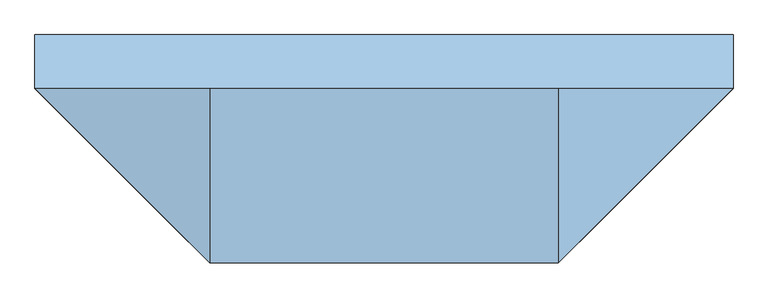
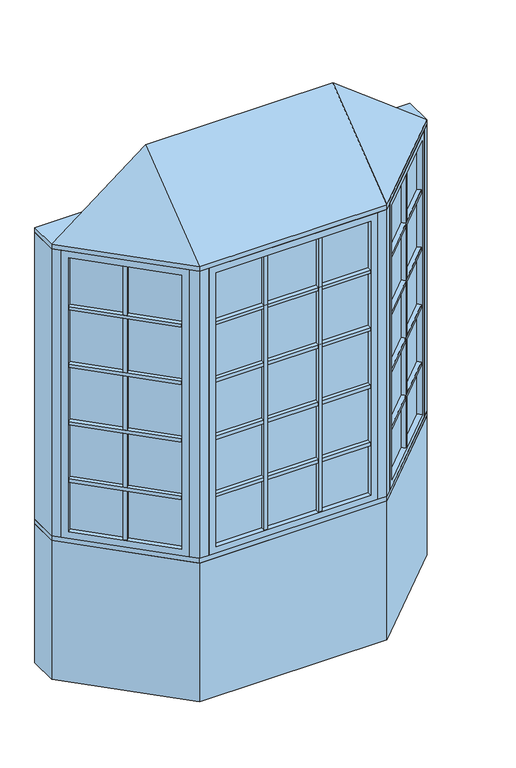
"""IFC4 building model written with IfcOpenShell, lengths in millimetres: window geometry, Pollard_Windows_Tudor Casement Bows and Bays : AML-BAY 45 AFR0516-10-600_GC."""

from ifc_helpers import new_model, si_unit, frame, origin, origin_with_axes, place, context, project, spatial, polyline, outline, extrude, faceted_brep, source, transform, mapped, element, save


def window_9b99bb87(model_context):
    return source(origin(), model_context, "Body", "SolidModel", [
        extrude(outline(polyline([(553.0114193, -506.9608753), (537.4550701, -491.4045261), (915.116171, -113.7434252), (930.6725202, -129.2997743), (553.0114193, -506.9608753)])), frame((0.0, 0.0, 1110.998), z_axis=(0.0, 0.0, 1.0), x_axis=(1.0, 0.0, 0.0)), (0.0, 0.0, 1.0), 18.0),
        extrude(outline(polyline([(533.8629677, -487.8124236), (518.3066185, -472.2560744), (895.9677194, -94.5949735), (911.5240686, -110.1513227), (533.8629677, -487.8124236)])), frame((0.0, 0.0, 1110.998), z_axis=(0.0, 0.0, 1.0), x_axis=(1.0, 0.0, 0.0)), (0.0, 0.0, 1.0), 18.0),
        extrude(outline(polyline([(553.0114193, -506.9608753), (537.4550701, -491.4045261), (915.116171, -113.7434252), (930.6725202, -129.2997743), (553.0114193, -506.9608753)])), frame((0.0, 0.0, 1430.998), z_axis=(0.0, 0.0, 1.0), x_axis=(1.0, 0.0, 0.0)), (0.0, 0.0, 1.0), 18.0),
        extrude(outline(polyline([(533.8629677, -487.8124236), (518.3066185, -472.2560744), (895.9677194, -94.5949735), (911.5240686, -110.1513227), (533.8629677, -487.8124236)])), frame((0.0, 0.0, 1430.998), z_axis=(0.0, 0.0, 1.0), x_axis=(1.0, 0.0, 0.0)), (0.0, 0.0, 1.0), 18.0),
        extrude(outline(polyline([(553.0114193, -506.9608753), (537.4550701, -491.4045261), (915.116171, -113.7434252), (930.6725202, -129.2997743), (553.0114193, -506.9608753)])), frame((0.0, 0.0, 1750.998), z_axis=(0.0, 0.0, 1.0), x_axis=(1.0, 0.0, 0.0)), (0.0, 0.0, 1.0), 18.0),
        extrude(outline(polyline([(533.8629677, -487.8124236), (518.3066185, -472.2560744), (895.9677194, -94.5949735), (911.5240686, -110.1513227), (533.8629677, -487.8124236)])), frame((0.0, 0.0, 1750.998), z_axis=(0.0, 0.0, 1.0), x_axis=(1.0, 0.0, 0.0)), (0.0, 0.0, 1.0), 18.0),
        extrude(outline(polyline([(553.0114193, -506.9608753), (537.4550701, -491.4045261), (915.116171, -113.7434252), (930.6725202, -129.2997743), (553.0114193, -506.9608753)])), frame((0.0, 0.0, 2070.998), z_axis=(0.0, 0.0, 1.0), x_axis=(1.0, 0.0, 0.0)), (0.0, 0.0, 1.0), 18.0),
        extrude(outline(polyline([(533.8629677, -487.8124236), (518.3066185, -472.2560744), (895.9677194, -94.5949735), (911.5240686, -110.1513227), (533.8629677, -487.8124236)])), frame((0.0, 0.0, 2070.998), z_axis=(0.0, 0.0, 1.0), x_axis=(1.0, 0.0, 0.0)), (0.0, 0.0, 1.0), 18.0),
        extrude(outline(polyline([(732.6495816, -296.2100146), (748.2059308, -311.7663638), (735.4780087, -324.4942858), (719.9216595, -308.9379366), (732.6495816, -296.2100146)])), frame((0.0, 0.0, 835.8628), z_axis=(0.0, 0.0, 1.0), x_axis=(1.0, 0.0, 0.0)), (0.0, 0.0, 1.0), 1528.2704),
        extrude(outline(polyline([(729.0574791, -292.6179121), (716.3295571, -305.3458342), (700.7732079, -289.789485), (713.50113, -277.0615629), (729.0574791, -292.6179121)])), frame((0.0, 0.0, 835.8628), z_axis=(0.0, 0.0, 1.0), x_axis=(1.0, 0.0, 0.0)), (0.0, 0.0, 1.0), 1528.2704),
        extrude(outline(polyline([(924.0964271, -104.763169), (528.474814, -500.3847822), (524.8827115, -496.7926797), (920.5043247, -101.1710666), (924.0964271, -104.763169)])), frame((0.0, 0.0, 823.1628), z_axis=(0.0, 0.0, 1.0), x_axis=(1.0, 0.0, 0.0)), (0.0, 0.0, 1.0), 1553.6704),
        faceted_brep([(915.116171, -113.7434252, 835.8628), (933.0766833, -131.7039374, 835.8628), (933.0766833, -131.7039374, 2364.1332), (915.116171, -113.7434252, 2364.1332), (920.5043247, -101.1710666, 823.1628), (924.0964271, -104.763169, 823.1628), (924.0964271, -104.763169, 2376.8332), (920.5043247, -101.1710666, 2376.8332), (893.5635563, -92.1908105, 835.8628), (911.5240686, -110.1513227, 835.8628), (911.5240686, -110.1513227, 2364.1332), (893.5635563, -92.1908105, 2364.1332), (958.4369265, -106.3436941, 799.998), (918.9237996, -66.8305672, 799.998), (918.9237996, -66.8305672, 2399.998), (958.4369265, -106.3436941, 2399.998), (555.4155823, -509.3650383, 2364.1332), (537.4550701, -491.4045261, 2364.1332), (528.474814, -500.3847822, 2376.8332), (524.8827115, -496.7926797, 2376.8332), (533.8629677, -487.8124236, 2364.1332), (515.9024554, -469.8519114, 2364.1332), (490.5422121, -495.2121547, 2399.998), (530.0553391, -534.7252816, 2399.998), (555.4155823, -509.3650383, 835.8628), (537.4550701, -491.4045261, 835.8628), (528.474814, -500.3847822, 823.1628), (524.8827115, -496.7926797, 823.1628), (533.8629677, -487.8124236, 835.8628), (515.9024554, -469.8519114, 835.8628), (490.5422121, -495.2121547, 799.998), (530.0553391, -534.7252816, 799.998)], [[[0, 1, 2, 3]], [[4, 5, 6, 7]], [[8, 9, 10, 11]], [[12, 13, 14, 15]], [[3, 2, 16, 17]], [[7, 6, 18, 19]], [[11, 10, 20, 21]], [[15, 14, 22, 23]], [[17, 16, 24, 25]], [[19, 18, 26, 27]], [[21, 20, 28, 29]], [[23, 22, 30, 31]], [[25, 24, 1, 0]], [[5, 26, 18, 6], [3, 17, 25, 0]], [[27, 26, 5, 4]], [[7, 19, 27, 4], [9, 28, 20, 10]], [[29, 28, 9, 8]], [[13, 30, 22, 14], [11, 21, 29, 8]], [[31, 30, 13, 12]], [[15, 23, 31, 12], [1, 24, 16, 2]]]),
        extrude(outline(polyline([(152.5118667, -544.6806207), (152.5118667, -566.6806207), (134.5118667, -566.6806207), (134.5118667, -544.6806207), (152.5118667, -544.6806207)])), frame((0.0, 0.0, 835.8628), z_axis=(0.0, 0.0, 1.0), x_axis=(1.0, 0.0, 0.0)), (0.0, 0.0, 1.0), 1528.2704),
        extrude(outline(polyline([(152.5118667, -539.6006207), (134.5118667, -539.6006207), (134.5118667, -517.6006207), (152.5118667, -517.6006207), (152.5118667, -539.6006207)])), frame((0.0, 0.0, 835.8628), z_axis=(0.0, 0.0, 1.0), x_axis=(1.0, 0.0, 0.0)), (0.0, 0.0, 1.0), 1528.2704),
        extrude(outline(polyline([(-134.5118667, -544.6806207), (-134.5118667, -566.6806207), (-152.5118667, -566.6806207), (-152.5118667, -544.6806207), (-134.5118667, -544.6806207)])), frame((0.0, 0.0, 835.8628), z_axis=(0.0, 0.0, 1.0), x_axis=(1.0, 0.0, 0.0)), (0.0, 0.0, 1.0), 1528.2704),
        extrude(outline(polyline([(-134.5118667, -539.6006207), (-152.5118667, -539.6006207), (-152.5118667, -517.6006207), (-134.5118667, -517.6006207), (-134.5118667, -539.6006207)])), frame((0.0, 0.0, 835.8628), z_axis=(0.0, 0.0, 1.0), x_axis=(1.0, 0.0, 0.0)), (0.0, 0.0, 1.0), 1528.2704),
        extrude(outline(polyline([(-408.8352, -566.6806207), (-408.8352, -544.6806207), (408.8352, -544.6806207), (408.8352, -566.6806207), (-408.8352, -566.6806207)])), frame((0.0, 0.0, 1110.998), z_axis=(0.0, 0.0, 1.0), x_axis=(1.0, 0.0, 0.0)), (0.0, 0.0, 1.0), 18.0),
        extrude(outline(polyline([(-408.8352, -539.6006207), (-408.8352, -517.6006207), (408.8352, -517.6006207), (408.8352, -539.6006207), (-408.8352, -539.6006207)])), frame((0.0, 0.0, 1110.998), z_axis=(0.0, 0.0, 1.0), x_axis=(1.0, 0.0, 0.0)), (0.0, 0.0, 1.0), 18.0),
        extrude(outline(polyline([(-408.8352, -566.6806207), (-408.8352, -544.6806207), (408.8352, -544.6806207), (408.8352, -566.6806207), (-408.8352, -566.6806207)])), frame((0.0, 0.0, 1430.998), z_axis=(0.0, 0.0, 1.0), x_axis=(1.0, 0.0, 0.0)), (0.0, 0.0, 1.0), 18.0),
        extrude(outline(polyline([(-408.8352, -539.6006207), (-408.8352, -517.6006207), (408.8352, -517.6006207), (408.8352, -539.6006207), (-408.8352, -539.6006207)])), frame((0.0, 0.0, 1430.998), z_axis=(0.0, 0.0, 1.0), x_axis=(1.0, 0.0, 0.0)), (0.0, 0.0, 1.0), 18.0),
        extrude(outline(polyline([(-408.8352, -566.6806207), (-408.8352, -544.6806207), (408.8352, -544.6806207), (408.8352, -566.6806207), (-408.8352, -566.6806207)])), frame((0.0, 0.0, 1750.998), z_axis=(0.0, 0.0, 1.0), x_axis=(1.0, 0.0, 0.0)), (0.0, 0.0, 1.0), 18.0),
        extrude(outline(polyline([(-408.8352, -539.6006207), (-408.8352, -517.6006207), (408.8352, -517.6006207), (408.8352, -539.6006207), (-408.8352, -539.6006207)])), frame((0.0, 0.0, 1750.998), z_axis=(0.0, 0.0, 1.0), x_axis=(1.0, 0.0, 0.0)), (0.0, 0.0, 1.0), 18.0),
        extrude(outline(polyline([(-930.6725202, -129.2997743), (-915.116171, -113.7434252), (-537.4550701, -491.4045261), (-553.0114193, -506.9608753), (-930.6725202, -129.2997743)])), frame((0.0, 0.0, 1110.998), z_axis=(0.0, 0.0, 1.0), x_axis=(1.0, 0.0, 0.0)), (0.0, 0.0, 1.0), 18.0),
        extrude(outline(polyline([(-911.5240686, -110.1513227), (-895.9677194, -94.5949735), (-518.3066185, -472.2560744), (-533.8629677, -487.8124236), (-911.5240686, -110.1513227)])), frame((0.0, 0.0, 1110.998), z_axis=(0.0, 0.0, 1.0), x_axis=(1.0, 0.0, 0.0)), (0.0, 0.0, 1.0), 18.0),
        extrude(outline(polyline([(-930.6725202, -129.2997743), (-915.116171, -113.7434252), (-537.4550701, -491.4045261), (-553.0114193, -506.9608753), (-930.6725202, -129.2997743)])), frame((0.0, 0.0, 1430.998), z_axis=(0.0, 0.0, 1.0), x_axis=(1.0, 0.0, 0.0)), (0.0, 0.0, 1.0), 18.0),
        extrude(outline(polyline([(-911.5240686, -110.1513227), (-895.9677194, -94.5949735), (-518.3066185, -472.2560744), (-533.8629677, -487.8124236), (-911.5240686, -110.1513227)])), frame((0.0, 0.0, 1430.998), z_axis=(0.0, 0.0, 1.0), x_axis=(1.0, 0.0, 0.0)), (0.0, 0.0, 1.0), 18.0),
        extrude(outline(polyline([(-930.6725202, -129.2997743), (-915.116171, -113.7434252), (-537.4550701, -491.4045261), (-553.0114193, -506.9608753), (-930.6725202, -129.2997743)])), frame((0.0, 0.0, 1750.998), z_axis=(0.0, 0.0, 1.0), x_axis=(1.0, 0.0, 0.0)), (0.0, 0.0, 1.0), 18.0),
        extrude(outline(polyline([(-911.5240686, -110.1513227), (-895.9677194, -94.5949735), (-518.3066185, -472.2560744), (-533.8629677, -487.8124236), (-911.5240686, -110.1513227)])), frame((0.0, 0.0, 1750.998), z_axis=(0.0, 0.0, 1.0), x_axis=(1.0, 0.0, 0.0)), (0.0, 0.0, 1.0), 18.0),
        extrude(outline(polyline([(-930.6725202, -129.2997743), (-915.116171, -113.7434252), (-537.4550701, -491.4045261), (-553.0114193, -506.9608753), (-930.6725202, -129.2997743)])), frame((0.0, 0.0, 2070.998), z_axis=(0.0, 0.0, 1.0), x_axis=(1.0, 0.0, 0.0)), (0.0, 0.0, 1.0), 18.0),
        extrude(outline(polyline([(-911.5240686, -110.1513227), (-895.9677194, -94.5949735), (-518.3066185, -472.2560744), (-533.8629677, -487.8124236), (-911.5240686, -110.1513227)])), frame((0.0, 0.0, 2070.998), z_axis=(0.0, 0.0, 1.0), x_axis=(1.0, 0.0, 0.0)), (0.0, 0.0, 1.0), 18.0),
        extrude(outline(polyline([(-408.8352, -566.6806207), (-408.8352, -544.6806207), (408.8352, -544.6806207), (408.8352, -566.6806207), (-408.8352, -566.6806207)])), frame((0.0, 0.0, 2070.998), z_axis=(0.0, 0.0, 1.0), x_axis=(1.0, 0.0, 0.0)), (0.0, 0.0, 1.0), 18.0),
        extrude(outline(polyline([(-408.8352, -539.6006207), (-408.8352, -517.6006207), (408.8352, -517.6006207), (408.8352, -539.6006207), (-408.8352, -539.6006207)])), frame((0.0, 0.0, 2070.998), z_axis=(0.0, 0.0, 1.0), x_axis=(1.0, 0.0, 0.0)), (0.0, 0.0, 1.0), 18.0),
        extrude(outline(polyline([(-719.9216595, -308.9379366), (-735.4780087, -324.4942858), (-748.2059308, -311.7663638), (-732.6495816, -296.2100146), (-719.9216595, -308.9379366)])), frame((0.0, 0.0, 835.8628), z_axis=(0.0, 0.0, 1.0), x_axis=(1.0, 0.0, 0.0)), (0.0, 0.0, 1.0), 1528.2704),
        extrude(outline(polyline([(-716.3295571, -305.3458342), (-729.0574791, -292.6179121), (-713.50113, -277.0615629), (-700.7732079, -289.789485), (-716.3295571, -305.3458342)])), frame((0.0, 0.0, 835.8628), z_axis=(0.0, 0.0, 1.0), x_axis=(1.0, 0.0, 0.0)), (0.0, 0.0, 1.0), 1528.2704),
        extrude(outline(polyline([(-528.474814, -500.3847822), (-924.0964271, -104.763169), (-920.5043247, -101.1710666), (-524.8827115, -496.7926797), (-528.474814, -500.3847822)])), frame((0.0, 0.0, 823.1628), z_axis=(0.0, 0.0, 1.0), x_axis=(1.0, 0.0, 0.0)), (0.0, 0.0, 1.0), 1553.6704),
        faceted_brep([(-533.8629677, -487.8124236, 2364.1332), (-515.9024554, -469.8519114, 2364.1332), (-515.9024554, -469.8519114, 835.8628), (-533.8629677, -487.8124236, 835.8628), (-528.474814, -500.3847822, 2376.8332), (-524.8827115, -496.7926797, 2376.8332), (-524.8827115, -496.7926797, 823.1628), (-528.474814, -500.3847822, 823.1628), (-555.4155823, -509.3650383, 2364.1332), (-537.4550701, -491.4045261, 2364.1332), (-537.4550701, -491.4045261, 835.8628), (-555.4155823, -509.3650383, 835.8628), (-490.5422121, -495.2121547, 2399.998), (-530.0553391, -534.7252816, 2399.998), (-530.0553391, -534.7252816, 799.998), (-490.5422121, -495.2121547, 799.998), (-893.5635563, -92.1908105, 835.8628), (-911.5240686, -110.1513227, 835.8628), (-920.5043247, -101.1710666, 823.1628), (-924.0964271, -104.763169, 823.1628), (-915.116171, -113.7434252, 835.8628), (-933.0766833, -131.7039374, 835.8628), (-958.4369265, -106.3436941, 799.998), (-918.9237996, -66.8305672, 799.998), (-893.5635563, -92.1908105, 2364.1332), (-911.5240686, -110.1513227, 2364.1332), (-920.5043247, -101.1710666, 2376.8332), (-924.0964271, -104.763169, 2376.8332), (-915.116171, -113.7434252, 2364.1332), (-933.0766833, -131.7039374, 2364.1332), (-958.4369265, -106.3436941, 2399.998), (-918.9237996, -66.8305672, 2399.998)], [[[0, 1, 2, 3]], [[4, 5, 6, 7]], [[8, 9, 10, 11]], [[12, 13, 14, 15]], [[3, 2, 16, 17]], [[7, 6, 18, 19]], [[11, 10, 20, 21]], [[15, 14, 22, 23]], [[17, 16, 24, 25]], [[19, 18, 26, 27]], [[21, 20, 28, 29]], [[23, 22, 30, 31]], [[15, 23, 31, 12], [1, 24, 16, 2]], [[25, 24, 1, 0]], [[5, 26, 18, 6], [3, 17, 25, 0]], [[27, 26, 5, 4]], [[7, 19, 27, 4], [9, 28, 20, 10]], [[29, 28, 9, 8]], [[13, 30, 22, 14], [11, 21, 29, 8]], [[31, 30, 13, 12]]]),
        extrude(outline(polyline([(421.5352, -544.6806207), (-421.5352, -544.6806207), (-421.5352, -539.6006207), (421.5352, -539.6006207), (421.5352, -544.6806207)])), frame((0.0, 0.0, 823.1628), z_axis=(0.0, 0.0, 1.0), x_axis=(1.0, 0.0, 0.0)), (0.0, 0.0, 1.0), 1553.6704),
        faceted_brep([(408.8352, -544.6806207, 835.8628), (408.8352, -570.0806207, 835.8628), (408.8352, -570.0806207, 2364.1332), (408.8352, -544.6806207, 2364.1332), (421.5352, -539.6006207, 823.1628), (421.5352, -544.6806207, 823.1628), (421.5352, -544.6806207, 2376.8332), (421.5352, -539.6006207, 2376.8332), (408.8352, -514.2006207, 835.8628), (408.8352, -539.6006207, 835.8628), (408.8352, -539.6006207, 2364.1332), (408.8352, -514.2006207, 2364.1332), (444.7, -570.0806207, 799.998), (444.7, -514.2006207, 799.998), (444.7, -514.2006207, 2399.998), (444.7, -570.0806207, 2399.998), (-408.8352, -570.0806207, 2364.1332), (-408.8352, -544.6806207, 2364.1332), (-421.5352, -544.6806207, 2376.8332), (-421.5352, -539.6006207, 2376.8332), (-408.8352, -539.6006207, 2364.1332), (-408.8352, -514.2006207, 2364.1332), (-444.7, -514.2006207, 2399.998), (-444.7, -570.0806207, 2399.998), (-408.8352, -570.0806207, 835.8628), (-408.8352, -544.6806207, 835.8628), (-421.5352, -544.6806207, 823.1628), (-421.5352, -539.6006207, 823.1628), (-408.8352, -539.6006207, 835.8628), (-408.8352, -514.2006207, 835.8628), (-444.7, -514.2006207, 799.998), (-444.7, -570.0806207, 799.998)], [[[0, 1, 2, 3]], [[4, 5, 6, 7]], [[8, 9, 10, 11]], [[12, 13, 14, 15]], [[3, 2, 16, 17]], [[7, 6, 18, 19]], [[11, 10, 20, 21]], [[15, 14, 22, 23]], [[17, 16, 24, 25]], [[19, 18, 26, 27]], [[21, 20, 28, 29]], [[23, 22, 30, 31]], [[15, 23, 31, 12], [1, 24, 16, 2]], [[25, 24, 1, 0]], [[5, 26, 18, 6], [3, 17, 25, 0]], [[27, 26, 5, 4]], [[7, 19, 27, 4], [9, 28, 20, 10]], [[29, 28, 9, 8]], [[13, 30, 22, 14], [11, 21, 29, 8]], [[31, 30, 13, 12]]]),
        faceted_brep([(990.0, -74.7806207, 2425.398), (494.7, -570.0806207, 2425.398), (-494.7, -570.0806207, 2425.398), (-990.0, -74.7806207, 2425.398), (-494.7, -74.7806207, 2806.398), (494.7, -74.7806207, 2806.398)], [[[0, 1, 2, 3]], [[3, 2, 4]], [[2, 1, 5, 4]], [[1, 0, 5]], [[0, 3, 4, 5]]]),
        extrude(outline(polyline([(-990.0, 77.6193793), (990.0, 77.6193793), (990.0, -74.7806207), (494.7, -570.0806207), (-494.7, -570.0806207), (-990.0, -74.7806207), (-990.0, 77.6193793)])), frame((0.0, 0.0, 2399.998), z_axis=(0.0, 0.0, 1.0), x_axis=(1.0, 0.0, 0.0)), (0.0, 0.0, 1.0), 25.4),
        extrude(outline(polyline([(-990.0, -74.7806207), (-990.0, 77.6193793), (-926.8738531, 77.6193793), (-926.8738531, -74.7806207), (-958.4369265, -106.3436941), (-990.0, -74.7806207)])), frame((0.0, 0.0, 799.998), z_axis=(0.0, 0.0, 1.0), x_axis=(1.0, 0.0, 0.0)), (0.0, 0.0, 1.0), 1600.0),
        extrude(outline(polyline([(990.0, 77.6193793), (990.0, -74.7806207), (958.4369265, -106.3436941), (926.8738531, -74.7806207), (926.8738531, 77.6193793), (990.0, 77.6193793)])), frame((0.0, 0.0, 799.998), z_axis=(0.0, 0.0, 1.0), x_axis=(1.0, 0.0, 0.0)), (0.0, 0.0, 1.0), 1600.0),
        extrude(outline(polyline([(494.7, -570.0806207), (444.7, -570.0806207), (444.7, -520.0806207), (473.9893219, -520.0806207), (494.7, -499.3699425), (530.0553391, -534.7252816), (494.7, -570.0806207)])), frame((0.0, 0.0, 799.998), z_axis=(0.0, 0.0, 1.0), x_axis=(1.0, 0.0, 0.0)), (0.0, 0.0, 1.0), 1600.0),
        extrude(outline(polyline([(-494.7, -570.0806207), (-530.0553391, -534.7252816), (-494.7, -499.3699425), (-473.9893219, -520.0806207), (-444.7, -520.0806207), (-444.7, -570.0806207), (-494.7, -570.0806207)])), frame((0.0, 0.0, 799.998), z_axis=(0.0, 0.0, 1.0), x_axis=(1.0, 0.0, 0.0)), (0.0, 0.0, 1.0), 1600.0),
        extrude(outline(polyline([(-494.7, -570.0806207), (-990.0, -74.7806207), (-990.0, 77.6193793), (-926.8738531, 77.6193793), (-431.5738531, -417.6806207), (431.5738531, -417.6806207), (926.8738531, 77.6193793), (990.0, 77.6193793), (990.0, -74.7806207), (494.7, -570.0806207), (-494.7, -570.0806207)])), frame((0.0, 0.0, 774.598), z_axis=(0.0, 0.0, 1.0), x_axis=(1.0, 0.0, 0.0)), (0.0, 0.0, 1.0), 25.4),
        extrude(outline(polyline([(-990.0, -74.7806207), (-990.0, 77.6193793), (-926.8738531, 77.6193793), (-431.5738531, -417.6806207), (431.5738531, -417.6806207), (926.8738531, 77.6193793), (990.0, 77.6193793), (990.0, -74.7806207), (494.7, -570.0806207), (-494.7, -570.0806207), (-990.0, -74.7806207)])), origin_with_axes(), (0.0, 0.0, 1.0), 774.598),
    ])


if __name__ == "__main__":
    model = new_model("IFC4")
    model_context = context("Model", 3, world=origin())
    ifc_project = project(units=[si_unit("LENGTHUNIT", "METRE", prefix="MILLI")], contexts=[model_context])
    site = spatial("IfcSite", under=ifc_project)
    building = spatial("IfcBuilding", under=site)
    placement = place(None, origin())
    window_shape = window_9b99bb87(model_context)
    element("IfcWindow", 1, ObjectType="Pollard_Windows_Tudor Casement Bows and Bays : AML-BAY 45 AFR0516-10-600_GC", at=placement, inside=building, context=model_context, shape_type="MappedRepresentation", body=[
        mapped(window_shape, transform((0.0, 0.0, 0.0), x_axis=(1.0, 0.0, 0.0), y_axis=(0.0, 1.0, 0.0), z_axis=(0.0, 0.0, 1.0))),
    ])
    save(model, "model.ifc")
